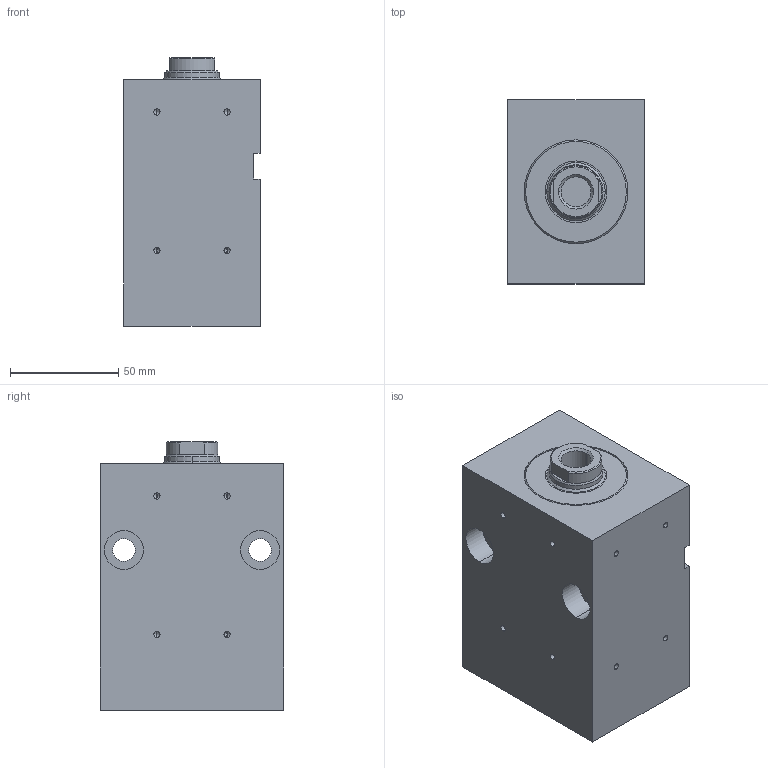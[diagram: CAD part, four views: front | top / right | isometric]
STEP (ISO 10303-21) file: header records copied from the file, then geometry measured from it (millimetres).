
FILE_DESCRIPTION (( 'STEP AP203' ), '1' );
FILE_NAME ('BZ_500.40_25.33.201.060 PP.NS40__DH_0_.STEP', '2022-05-27T08:53:02', ( '' ), ( '' ), 'SwSTEP 2.0', 'SolidWorks 2020', '' );
FILE_SCHEMA (( 'CONFIG_CONTROL_DESIGN' ));
Length unit declared in the file: millimetre
Products named in the file (7): _O-Ring 9x2 - Art. 104351^BZ_500.40_25.33.201.060 PP.NS40__DH_0_(2)_BZ_500.40_25.33.201.060 PP.NS40__DH_0_; _Verschraubung komplett mit Dichtung f. BZ_RZ_FZ.40_25.201, Art.-Nr._ 041752(201)^BZ_500.40_25.33.201.060 PP.NS40__DH_0_(2)_BZ_500.40_25.33.201.060 PP.NS40__DH_0_; _Dichtungssatz f. BZ_RZ_FZ.40_25.xx.201.60 Artikelnr._ 013543(0)^BZ_500.40_25.33.201.060 PP.NS40__DH_0_(2)_BZ_500.40_25.33.201.060 PP.NS40__DH_0_; BZ_500.40_25.33.201.060 PP.NS40__DH_0_(2)^BZ_500.40_25.33.201.060 PP.NS40__DH_0_; _Kolbenstange komplett f. BZ_RZ_FZ.40_25.xx.201.60(0_11 1 16 2 0 0 10 25 0 0 0)0^BZ_500.40_25.33.201.060 PP.NS40__DH_0_(2)_BZ_500.40_25.33.201.060 PP.NS40__DH_0_; _Gehaeuse f. BZ500.40_25.33.201.60.N1.m (m = Nut spiegelbildlich40)Nut rechts, Senkungen links00(140frei1330220))7^BZ_500.40_25.33.201.060 PP.NS40__DH_0_(2)_BZ_500.40_25.33.201.060 PP.NS40__DH_0_; BZ_500.40_25.33.201.060 PP.NS40__DH_0_
Assembly tree (7 placements, depth 3):
  BZ_500.40_25.33.201.060 PP.NS40__DH_0_
    BZ_500.40_25.33.201.060 PP.NS40__DH_0_(2)^BZ_500.40_25.33.201.060 PP.NS40__DH_0_
      _Gehaeuse f. BZ500.40_25.33.201.60.N1.m (m = Nut spiegelbildlich40)Nut rechts, Senkungen links00(140frei1330220))7^BZ_500.40_25.33.201.060 PP.NS40__DH_0_(2)_BZ_500.40_25.33.201.060 PP.NS40__DH_0_
      _Verschraubung komplett mit Dichtung f. BZ_RZ_FZ.40_25.201, Art.-Nr._ 041752(201)^BZ_500.40_25.33.201.060 PP.NS40__DH_0_(2)_BZ_500.40_25.33.201.060 PP.NS40__DH_0_
      _Dichtungssatz f. BZ_RZ_FZ.40_25.xx.201.60 Artikelnr._ 013543(0)^BZ_500.40_25.33.201.060 PP.NS40__DH_0_(2)_BZ_500.40_25.33.201.060 PP.NS40__DH_0_
      _Kolbenstange komplett f. BZ_RZ_FZ.40_25.xx.201.60(0_11 1 16 2 0 0 10 25 0 0 0)0^BZ_500.40_25.33.201.060 PP.NS40__DH_0_(2)_BZ_500.40_25.33.201.060 PP.NS40__DH_0_
      _O-Ring 9x2 - Art. 104351^BZ_500.40_25.33.201.060 PP.NS40__DH_0_(2)_BZ_500.40_25.33.201.060 PP.NS40__DH_0_  x2
Bounding box: 63 x 85 x 124 mm (x, y, z)
Volume: 545738.2 mm3; surface area: 88490 mm2
Topology: 6 solids, 6 shells, 154 faces, 353 edges, 209 vertices
Faces by surface type: cylinder 70, plane 38, cone 34, torus 12
Entity records: 4834 total; most frequent: DIRECTION 783, CARTESIAN_POINT 727, ORIENTED_EDGE 626, AXIS2_PLACEMENT_3D 323, EDGE_CURVE 313, VERTEX_POINT 199, EDGE_LOOP 182, CIRCLE 166
